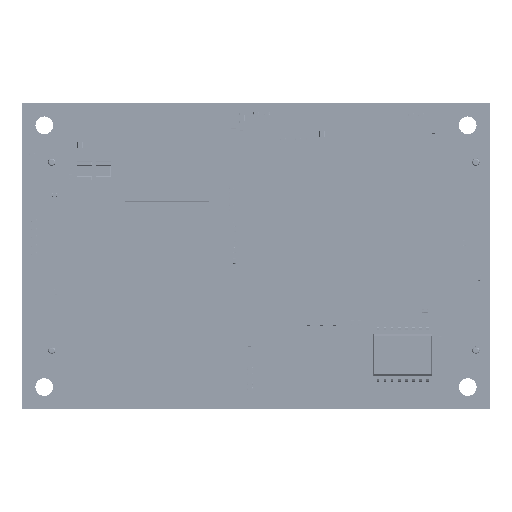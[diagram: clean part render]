
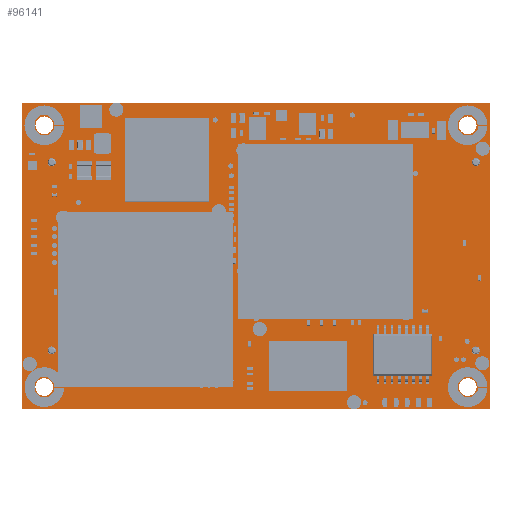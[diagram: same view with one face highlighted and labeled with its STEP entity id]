
A CAD part, top view. The second image highlights one B-rep face of the part: STEP entity #96141.
In plain terms, the highlighted planar face has unit normal (0, 0, 1).
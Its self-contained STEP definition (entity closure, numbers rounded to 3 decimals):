
#20176=CIRCLE($,#70488,1.588);
#20177=CIRCLE($,#70489,1.588);
#20180=CIRCLE($,#70494,1.588);
#20181=CIRCLE($,#70495,1.588);
#20184=CIRCLE($,#70500,1.588);
#20185=CIRCLE($,#70501,1.588);
#20188=CIRCLE($,#70506,1.588);
#20189=CIRCLE($,#70507,1.588);
#20192=CIRCLE($,#70512,0.724);
#20193=CIRCLE($,#70513,0.724);
#20196=CIRCLE($,#70518,0.724);
#20197=CIRCLE($,#70519,0.724);
#20200=CIRCLE($,#70524,0.724);
#20201=CIRCLE($,#70525,0.724);
#20204=CIRCLE($,#70530,0.724);
#20205=CIRCLE($,#70531,0.724);
#20208=CIRCLE($,#70536,0.508);
#20209=CIRCLE($,#70537,0.508);
#20212=CIRCLE($,#70542,0.508);
#20213=CIRCLE($,#70543,0.508);
#20216=CIRCLE($,#70548,0.508);
#20217=CIRCLE($,#70549,0.508);
#20220=CIRCLE($,#70554,0.508);
#20221=CIRCLE($,#70555,0.508);
#20224=CIRCLE($,#70560,0.508);
#20225=CIRCLE($,#70561,0.508);
#46450=FACE_OUTER_BOUND($,#58400,.F.);
#46456=FACE_OUTER_BOUND($,#58406,.T.);
#46460=FACE_OUTER_BOUND($,#58410,.T.);
#46464=FACE_OUTER_BOUND($,#58414,.T.);
#46468=FACE_OUTER_BOUND($,#58418,.T.);
#46472=FACE_OUTER_BOUND($,#58422,.T.);
#46476=FACE_OUTER_BOUND($,#58426,.T.);
#46480=FACE_OUTER_BOUND($,#58430,.T.);
#46484=FACE_OUTER_BOUND($,#58434,.T.);
#46488=FACE_OUTER_BOUND($,#58438,.T.);
#46492=FACE_OUTER_BOUND($,#58442,.T.);
#46496=FACE_OUTER_BOUND($,#58446,.T.);
#46500=FACE_OUTER_BOUND($,#58450,.T.);
#46504=FACE_OUTER_BOUND($,#58454,.T.);
#58400=EDGE_LOOP($,(#108062,#108063,#108064,#108065));
#58406=EDGE_LOOP($,(#108086,#108087));
#58410=EDGE_LOOP($,(#108098,#108099));
#58414=EDGE_LOOP($,(#108110,#108111));
#58418=EDGE_LOOP($,(#108122,#108123));
#58422=EDGE_LOOP($,(#108134,#108135));
#58426=EDGE_LOOP($,(#108146,#108147));
#58430=EDGE_LOOP($,(#108158,#108159));
#58434=EDGE_LOOP($,(#108170,#108171));
#58438=EDGE_LOOP($,(#108182,#108183));
#58442=EDGE_LOOP($,(#108194,#108195));
#58446=EDGE_LOOP($,(#108206,#108207));
#58450=EDGE_LOOP($,(#108218,#108219));
#58454=EDGE_LOOP($,(#108230,#108231));
#70482=AXIS2_PLACEMENT_3D($,#349879,#288662,$);
#70488=AXIS2_PLACEMENT_3D($,#349891,#288662,$);
#70489=AXIS2_PLACEMENT_3D($,#349892,#288662,$);
#70494=AXIS2_PLACEMENT_3D($,#349903,#288662,$);
#70495=AXIS2_PLACEMENT_3D($,#349904,#288662,$);
#70500=AXIS2_PLACEMENT_3D($,#349915,#288662,$);
#70501=AXIS2_PLACEMENT_3D($,#349916,#288662,$);
#70506=AXIS2_PLACEMENT_3D($,#349927,#288662,$);
#70507=AXIS2_PLACEMENT_3D($,#349928,#288662,$);
#70512=AXIS2_PLACEMENT_3D($,#349939,#288662,$);
#70513=AXIS2_PLACEMENT_3D($,#349940,#288662,$);
#70518=AXIS2_PLACEMENT_3D($,#349951,#288662,$);
#70519=AXIS2_PLACEMENT_3D($,#349952,#288662,$);
#70524=AXIS2_PLACEMENT_3D($,#349963,#288662,$);
#70525=AXIS2_PLACEMENT_3D($,#349964,#288662,$);
#70530=AXIS2_PLACEMENT_3D($,#349975,#288662,$);
#70531=AXIS2_PLACEMENT_3D($,#349976,#288662,$);
#70536=AXIS2_PLACEMENT_3D($,#349987,#288662,$);
#70537=AXIS2_PLACEMENT_3D($,#349988,#288662,$);
#70542=AXIS2_PLACEMENT_3D($,#349999,#288662,$);
#70543=AXIS2_PLACEMENT_3D($,#350000,#288662,$);
#70548=AXIS2_PLACEMENT_3D($,#350011,#288662,$);
#70549=AXIS2_PLACEMENT_3D($,#350012,#288662,$);
#70554=AXIS2_PLACEMENT_3D($,#350023,#288662,$);
#70555=AXIS2_PLACEMENT_3D($,#350024,#288662,$);
#70560=AXIS2_PLACEMENT_3D($,#350035,#288662,$);
#70561=AXIS2_PLACEMENT_3D($,#350036,#288662,$);
#85486=PLANE($,#70482);
#96141=ADVANCED_FACE($,(#46450,#46456,#46460,#46464,#46468,#46472,#46476,
#46480,#46484,#46488,#46492,#46496,#46500,#46504),#85486,.T.);
#108062=ORIENTED_EDGE($,*,*,#156788,.T.);
#108063=ORIENTED_EDGE($,*,*,#156789,.T.);
#108064=ORIENTED_EDGE($,*,*,#156790,.T.);
#108065=ORIENTED_EDGE($,*,*,#156791,.T.);
#108086=ORIENTED_EDGE($,*,*,#156801,.T.);
#108087=ORIENTED_EDGE($,*,*,#156802,.T.);
#108098=ORIENTED_EDGE($,*,*,#156808,.T.);
#108099=ORIENTED_EDGE($,*,*,#156809,.T.);
#108110=ORIENTED_EDGE($,*,*,#156815,.T.);
#108111=ORIENTED_EDGE($,*,*,#156816,.T.);
#108122=ORIENTED_EDGE($,*,*,#156822,.T.);
#108123=ORIENTED_EDGE($,*,*,#156823,.T.);
#108134=ORIENTED_EDGE($,*,*,#156829,.T.);
#108135=ORIENTED_EDGE($,*,*,#156830,.T.);
#108146=ORIENTED_EDGE($,*,*,#156836,.T.);
#108147=ORIENTED_EDGE($,*,*,#156837,.T.);
#108158=ORIENTED_EDGE($,*,*,#156843,.T.);
#108159=ORIENTED_EDGE($,*,*,#156844,.T.);
#108170=ORIENTED_EDGE($,*,*,#156850,.T.);
#108171=ORIENTED_EDGE($,*,*,#156851,.T.);
#108182=ORIENTED_EDGE($,*,*,#156857,.T.);
#108183=ORIENTED_EDGE($,*,*,#156858,.T.);
#108194=ORIENTED_EDGE($,*,*,#156864,.T.);
#108195=ORIENTED_EDGE($,*,*,#156865,.T.);
#108206=ORIENTED_EDGE($,*,*,#156871,.T.);
#108207=ORIENTED_EDGE($,*,*,#156872,.T.);
#108218=ORIENTED_EDGE($,*,*,#156878,.T.);
#108219=ORIENTED_EDGE($,*,*,#156879,.T.);
#108230=ORIENTED_EDGE($,*,*,#156885,.T.);
#108231=ORIENTED_EDGE($,*,*,#156886,.T.);
#156788=EDGE_CURVE($,#256682,#256683,#224153,.T.);
#156789=EDGE_CURVE($,#256683,#256684,#224154,.T.);
#156790=EDGE_CURVE($,#256684,#256685,#224155,.T.);
#156791=EDGE_CURVE($,#256685,#256682,#224156,.T.);
#156801=EDGE_CURVE($,#256692,#256693,#20176,.F.);
#156802=EDGE_CURVE($,#256693,#256692,#20177,.F.);
#156808=EDGE_CURVE($,#256698,#256699,#20180,.F.);
#156809=EDGE_CURVE($,#256699,#256698,#20181,.F.);
#156815=EDGE_CURVE($,#256704,#256705,#20184,.F.);
#156816=EDGE_CURVE($,#256705,#256704,#20185,.F.);
#156822=EDGE_CURVE($,#256710,#256711,#20188,.F.);
#156823=EDGE_CURVE($,#256711,#256710,#20189,.F.);
#156829=EDGE_CURVE($,#256716,#256717,#20192,.F.);
#156830=EDGE_CURVE($,#256717,#256716,#20193,.F.);
#156836=EDGE_CURVE($,#256722,#256723,#20196,.F.);
#156837=EDGE_CURVE($,#256723,#256722,#20197,.F.);
#156843=EDGE_CURVE($,#256728,#256729,#20200,.F.);
#156844=EDGE_CURVE($,#256729,#256728,#20201,.F.);
#156850=EDGE_CURVE($,#256734,#256735,#20204,.F.);
#156851=EDGE_CURVE($,#256735,#256734,#20205,.F.);
#156857=EDGE_CURVE($,#256740,#256741,#20208,.F.);
#156858=EDGE_CURVE($,#256741,#256740,#20209,.F.);
#156864=EDGE_CURVE($,#256746,#256747,#20212,.F.);
#156865=EDGE_CURVE($,#256747,#256746,#20213,.F.);
#156871=EDGE_CURVE($,#256752,#256753,#20216,.F.);
#156872=EDGE_CURVE($,#256753,#256752,#20217,.F.);
#156878=EDGE_CURVE($,#256758,#256759,#20220,.F.);
#156879=EDGE_CURVE($,#256759,#256758,#20221,.F.);
#156885=EDGE_CURVE($,#256764,#256765,#20224,.F.);
#156886=EDGE_CURVE($,#256765,#256764,#20225,.F.);
#191624=VECTOR($,#288665,83.998);
#191625=VECTOR($,#288666,54.991);
#191626=VECTOR($,#288667,83.998);
#191627=VECTOR($,#288668,54.991);
#224153=LINE($,#349878,#191624);
#224154=LINE($,#349879,#191625);
#224155=LINE($,#349880,#191626);
#224156=LINE($,#349881,#191627);
#256682=VERTEX_POINT($,#349878);
#256683=VERTEX_POINT($,#349879);
#256684=VERTEX_POINT($,#349880);
#256685=VERTEX_POINT($,#349881);
#256692=VERTEX_POINT($,#349888);
#256693=VERTEX_POINT($,#349889);
#256698=VERTEX_POINT($,#349900);
#256699=VERTEX_POINT($,#349901);
#256704=VERTEX_POINT($,#349912);
#256705=VERTEX_POINT($,#349913);
#256710=VERTEX_POINT($,#349924);
#256711=VERTEX_POINT($,#349925);
#256716=VERTEX_POINT($,#349936);
#256717=VERTEX_POINT($,#349937);
#256722=VERTEX_POINT($,#349948);
#256723=VERTEX_POINT($,#349949);
#256728=VERTEX_POINT($,#349960);
#256729=VERTEX_POINT($,#349961);
#256734=VERTEX_POINT($,#349972);
#256735=VERTEX_POINT($,#349973);
#256740=VERTEX_POINT($,#349984);
#256741=VERTEX_POINT($,#349985);
#256746=VERTEX_POINT($,#349996);
#256747=VERTEX_POINT($,#349997);
#256752=VERTEX_POINT($,#350008);
#256753=VERTEX_POINT($,#350009);
#256758=VERTEX_POINT($,#350020);
#256759=VERTEX_POINT($,#350021);
#256764=VERTEX_POINT($,#350032);
#256765=VERTEX_POINT($,#350033);
#288662=DIRECTION($,(0.,0.,1.));
#288665=DIRECTION($,(1.,0.,0.));
#288666=DIRECTION($,(0.,-1.,0.));
#288667=DIRECTION($,(-1.,0.,0.));
#288668=DIRECTION($,(0.,1.,0.));
#349878=CARTESIAN_POINT('',(0.,54.991,0.));
#349879=CARTESIAN_POINT('',(83.998,54.991,0.));
#349880=CARTESIAN_POINT('',(83.998,0.,0.));
#349881=CARTESIAN_POINT('',(0.,0.,0.));
#349888=CARTESIAN_POINT('',(81.585,50.991,0.));
#349889=CARTESIAN_POINT('',(78.41,50.991,0.));
#349891=CARTESIAN_POINT('',(79.998,50.991,0.));
#349892=CARTESIAN_POINT('',(79.998,50.991,0.));
#349900=CARTESIAN_POINT('',(5.587,50.991,0.));
#349901=CARTESIAN_POINT('',(2.412,50.991,0.));
#349903=CARTESIAN_POINT('',(4.,50.991,0.));
#349904=CARTESIAN_POINT('',(4.,50.991,0.));
#349912=CARTESIAN_POINT('',(81.585,4.,0.));
#349913=CARTESIAN_POINT('',(78.41,4.,0.));
#349915=CARTESIAN_POINT('',(79.998,4.,0.));
#349916=CARTESIAN_POINT('',(79.998,4.,0.));
#349924=CARTESIAN_POINT('',(5.587,4.,0.));
#349925=CARTESIAN_POINT('',(2.412,4.,0.));
#349927=CARTESIAN_POINT('',(4.,4.,0.));
#349928=CARTESIAN_POINT('',(4.,4.,0.));
#349936=CARTESIAN_POINT('',(6.061,10.572,0.));
#349937=CARTESIAN_POINT('',(4.613,10.572,0.));
#349939=CARTESIAN_POINT('',(5.337,10.572,0.));
#349940=CARTESIAN_POINT('',(5.337,10.572,0.));
#349948=CARTESIAN_POINT('',(6.061,44.372,0.));
#349949=CARTESIAN_POINT('',(4.613,44.372,0.));
#349951=CARTESIAN_POINT('',(5.337,44.372,0.));
#349952=CARTESIAN_POINT('',(5.337,44.372,0.));
#349960=CARTESIAN_POINT('',(82.185,10.572,0.));
#349961=CARTESIAN_POINT('',(80.737,10.572,0.));
#349963=CARTESIAN_POINT('',(81.461,10.572,0.));
#349964=CARTESIAN_POINT('',(81.461,10.572,0.));
#349972=CARTESIAN_POINT('',(82.185,44.372,0.));
#349973=CARTESIAN_POINT('',(80.737,44.372,0.));
#349975=CARTESIAN_POINT('',(81.461,44.372,0.));
#349976=CARTESIAN_POINT('',(81.461,44.372,0.));
#349984=CARTESIAN_POINT('',(11.889,53.585,0.));
#349985=CARTESIAN_POINT('',(10.873,53.585,0.));
#349987=CARTESIAN_POINT('',(11.381,53.585,0.));
#349988=CARTESIAN_POINT('',(11.381,53.585,0.));
#349996=CARTESIAN_POINT('',(13.889,53.585,0.));
#349997=CARTESIAN_POINT('',(12.873,53.585,0.));
#349999=CARTESIAN_POINT('',(13.381,53.585,0.));
#350000=CARTESIAN_POINT('',(13.381,53.585,0.));
#350008=CARTESIAN_POINT('',(11.889,51.585,0.));
#350009=CARTESIAN_POINT('',(10.873,51.585,0.));
#350011=CARTESIAN_POINT('',(11.381,51.585,0.));
#350012=CARTESIAN_POINT('',(11.381,51.585,0.));
#350020=CARTESIAN_POINT('',(13.889,51.585,0.));
#350021=CARTESIAN_POINT('',(12.873,51.585,0.));
#350023=CARTESIAN_POINT('',(13.381,51.585,0.));
#350024=CARTESIAN_POINT('',(13.381,51.585,0.));
#350032=CARTESIAN_POINT('',(47.015,52.68,0.));
#350033=CARTESIAN_POINT('',(45.999,52.68,0.));
#350035=CARTESIAN_POINT('',(46.507,52.68,0.));
#350036=CARTESIAN_POINT('',(46.507,52.68,0.));
